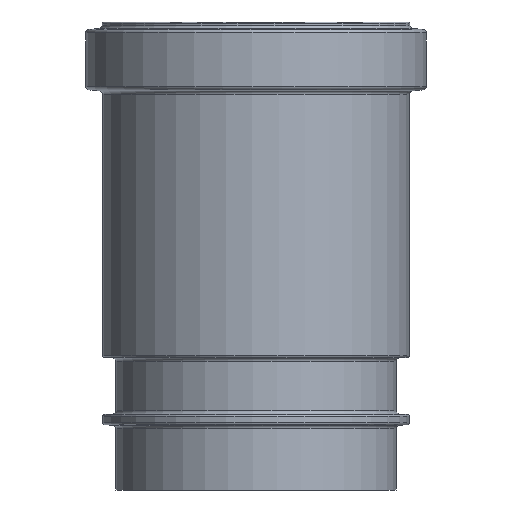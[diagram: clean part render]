
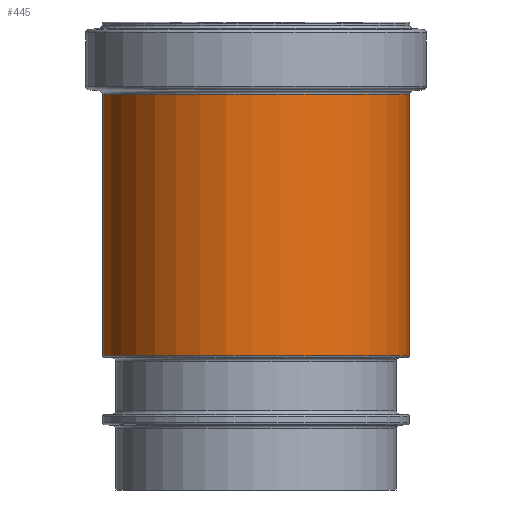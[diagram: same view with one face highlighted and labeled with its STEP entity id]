
A CAD part, front view. The second image highlights one B-rep face of the part: STEP entity #445.
In plain terms, the highlighted cylindrical face has radius 87.725 mm (diameter 175.45 mm), a full revolution.
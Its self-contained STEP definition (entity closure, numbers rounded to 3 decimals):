
#28=CYLINDRICAL_SURFACE('',#511,87.725);
#47=FACE_BOUND('',#136,.T.);
#85=FACE_OUTER_BOUND('',#135,.T.);
#135=EDGE_LOOP('',(#325));
#136=EDGE_LOOP('',(#326));
#191=CIRCLE('',#493,87.725);
#201=CIRCLE('',#512,87.725);
#229=VERTEX_POINT('',#728);
#239=VERTEX_POINT('',#757);
#267=EDGE_CURVE('',#229,#229,#191,.T.);
#277=EDGE_CURVE('',#239,#239,#201,.T.);
#325=ORIENTED_EDGE('',*,*,#277,.T.);
#326=ORIENTED_EDGE('',*,*,#267,.T.);
#445=ADVANCED_FACE('',(#85,#47),#28,.T.);
#493=AXIS2_PLACEMENT_3D('',#729,#579,#580);
#511=AXIS2_PLACEMENT_3D('',#756,#615,#616);
#512=AXIS2_PLACEMENT_3D('',#758,#617,#618);
#579=DIRECTION('center_axis',(0.,0.,-1.));
#580=DIRECTION('ref_axis',(-0.878,-0.479,0.));
#615=DIRECTION('center_axis',(0.,0.,1.));
#616=DIRECTION('ref_axis',(1.,0.,0.));
#617=DIRECTION('center_axis',(0.,0.,1.));
#618=DIRECTION('ref_axis',(-0.878,-0.479,0.));
#728=CARTESIAN_POINT('',(-76.986,-42.058,-41.339));
#729=CARTESIAN_POINT('Origin',(0.,0.,
-41.339));
#756=CARTESIAN_POINT('Origin',(0.,0.,-133.908));
#757=CARTESIAN_POINT('',(76.986,42.058,-190.949));
#758=CARTESIAN_POINT('Origin',(0.,0.,
-190.949));
